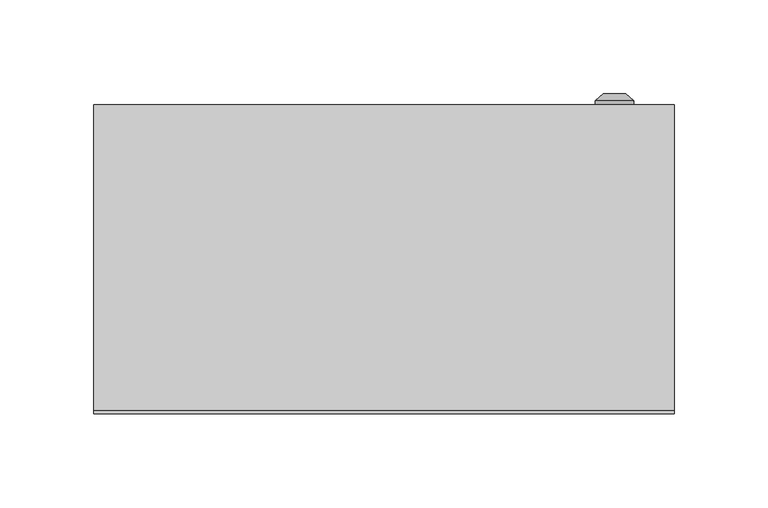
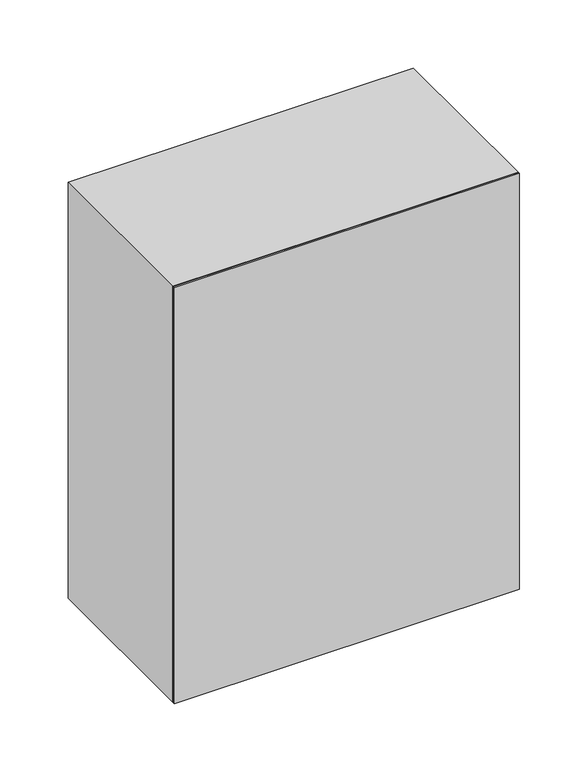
"""IFC4 building model written with IfcOpenShell, lengths in millimetres: proxy geometry, ЩУРН-1_12 : ЩУРН-1/12."""

from ifc_helpers import new_model, si_unit, point, frame, frame_2d, origin, origin_with_axes, place, context, project, spatial, polyline, circle_curve, trimmed, segment, composite_curve, outline, extrude, source, transform, mapped, element, save
from ifc_brep_helpers import plane_surface, cylinder_surface, revolved_surface, advanced_brep


def electrical_equipment_d42505dd(model_context):
    return source(origin(), model_context, "Body", "SolidModel", [
        advanced_brep(
        [(112.669873, 165.0, 197.5), (133.330127, 165.0, 197.5), (123.0, 165.0, 197.5), (121.1080471, 171.0, 197.5), (124.8919529, 171.0, 197.5), (129.0, 171.0, 197.5), (117.0, 171.0, 197.5), (121.1080471, 169.9822294, 197.5), (124.8919529, 169.9822294, 197.5), (123.0, 169.9822294, 197.5), (112.669873, 167.366592, 197.5), (133.330127, 167.366592, 197.5)],
        [
            (0, 1, circle_curve(frame((123.0, 165.0, 197.5), z_axis=(0.0, -1.0, 0.0), x_axis=(1.0, 0.0, 0.0)), 10.330127)),
            (1, 2),
            (2, 0),
            (1, 0, circle_curve(frame((123.0, 165.0, 197.5), z_axis=(0.0, -1.0, 0.0), x_axis=(1.0, 0.0, 0.0)), 10.330127)),
            (3, 4, circle_curve(frame((123.0, 171.0, 197.5), z_axis=(0.0, -1.0, 0.0), x_axis=(1.0, 0.0, 0.0)), 1.8919529)),
            (4, 5),
            (5, 6, circle_curve(frame((123.0, 171.0, 197.5), z_axis=(0.0, 1.0, 0.0), x_axis=(1.0, 0.0, 0.0)), 6.0)),
            (6, 3),
            (4, 3, circle_curve(frame((123.0, 171.0, 197.5), z_axis=(0.0, -1.0, 0.0), x_axis=(1.0, 0.0, 0.0)), 1.8919529)),
            (6, 5, circle_curve(frame((123.0, 171.0, 197.5), z_axis=(0.0, 1.0, 0.0), x_axis=(1.0, 0.0, 0.0)), 6.0)),
            (7, 8, circle_curve(frame((123.0, 169.9822294, 197.5), z_axis=(0.0, -1.0, 0.0), x_axis=(1.0, 0.0, 0.0)), 1.8919529)),
            (8, 4),
            (3, 7),
            (8, 7, circle_curve(frame((123.0, 169.9822294, 197.5), z_axis=(0.0, -1.0, 0.0), x_axis=(1.0, 0.0, 0.0)), 1.8919529)),
            (9, 8),
            (7, 9),
            (10, 11, circle_curve(frame((123.0, 167.366592, 197.5), z_axis=(0.0, -1.0, 0.0), x_axis=(1.0, 0.0, 0.0)), 10.330127)),
            (11, 1),
            (0, 10),
            (11, 10, circle_curve(frame((123.0, 167.366592, 197.5), z_axis=(0.0, -1.0, 0.0), x_axis=(1.0, 0.0, 0.0)), 10.330127)),
            (5, 11),
            (10, 6),
        ],
        [
            plane_surface(frame((123.0, 165.0, 197.5), z_axis=(0.0, -1.0, 0.0), x_axis=(1.0, 0.0, 0.0))),
            plane_surface(frame((123.0, 171.0, 197.5), z_axis=(0.0, 1.0, 0.0), x_axis=(1.0, 0.0, 0.0))),
            revolved_surface(polyline([(124.8919529, 171.0, 197.5), (124.8919529, 169.9822294, 197.5)]), (123.0, 178.1348851, 197.5), (0.0, 1.0, 0.0)),
            plane_surface(frame((123.0, 169.9822294, 197.5), z_axis=(0.0, 1.0, 0.0), x_axis=(1.0, 0.0, 0.0))),
            cylinder_surface(frame((123.0, 178.1348851, 197.5), z_axis=(0.0, 1.0, 0.0), x_axis=(1.0, 0.0, 0.0)), 10.330127),
            revolved_surface(polyline([(133.330127, 167.366592, 197.5), (129.0, 171.0, 197.5)]), (123.0, 178.1348851, 197.5), (0.0, 1.0, 0.0)),
        ],
        [
            (0, [[1, 2, 3]]),
            (0, [[4, -3, -2]]),
            (1, [[5, 6, 7, 8]]),
            (1, [[9, -8, 10, -6]]),
            (2, [[11, 12, -5, 13]]),
            (2, [[14, -13, -9, -12]]),
            (3, [[15, -11, 16]]),
            (3, [[-16, -14, -15]]),
            (4, [[17, 18, -1, 19]]),
            (4, [[20, -19, -4, -18]]),
            (5, [[-7, 21, -17, 22]]),
            (5, [[-10, -22, -20, -21]]),
        ],
    ),
        extrude(outline(polyline([(379.0, -139.0), (16.0, -139.0), (16.0, 139.0), (379.0, 139.0), (379.0, -139.0)]), holes=[composite_curve([segment(polyline([(315.0, -40.0), (315.0, -10.0), (315.0, 20.0)]), True, "CONTINUOUS"), segment(trimmed(circle_curve(frame_2d((305.0, 20.0)), 10.0), [point((315.0, 20.0))], [point((305.0, 30.0))], True, "CARTESIAN"), True, "CONTINUOUS"), segment(polyline([(305.0, 30.0), (275.0, 30.0)]), True, "CONTINUOUS"), segment(trimmed(circle_curve(frame_2d((275.0, 20.0)), 10.0), [point((275.0, 30.0))], [point((265.0, 20.0))], True, "CARTESIAN"), True, "CONTINUOUS"), segment(polyline([(265.0, 20.0), (265.0, -40.0)]), True, "CONTINUOUS"), segment(trimmed(circle_curve(frame_2d((275.0, -40.0)), 10.0), [point((265.0, -40.0))], [point((275.0, -50.0))], True, "CARTESIAN"), True, "CONTINUOUS"), segment(polyline([(275.0, -50.0), (305.0, -50.0)]), True, "CONTINUOUS"), segment(trimmed(circle_curve(frame_2d((305.0, -40.0)), 10.0), [point((305.0, -50.0))], [point((315.0, -40.0))], True, "CARTESIAN"), True, "CONTINUOUS")], self_intersect=False)]), frame((0.0, 163.0, 0.0), z_axis=(0.0, 1.0, 0.0), x_axis=(0.0, 0.0, 1.0)), (0.0, 0.0, 1.0), 2.0),
        extrude(outline(polyline([(395.0, -155.0033905), (0.0, -155.0033905), (0.0, 154.9966095), (395.0, 154.9966095), (395.0, -155.0033905)]), holes=[polyline([(380.0, -140.0), (380.0, 140.0), (15.0, 140.0), (15.0, -140.0), (380.0, -140.0)])]), frame((0.0, 2.0, 0.0), z_axis=(0.0, 1.0, 0.0), x_axis=(0.0, 0.0, 1.0)), (0.0, 0.0, 1.0), 163.0),
        extrude(outline(polyline([(155.0, 0.0), (-155.0, 0.0), (-155.0, 2.0), (155.0, 2.0), (155.0, 0.0)])), origin_with_axes(), (0.0, 0.0, 1.0), 395.0),
    ])


if __name__ == "__main__":
    model = new_model("IFC4")
    model_context = context("Model", 3, world=origin())
    ifc_project = project(units=[si_unit("LENGTHUNIT", "METRE", prefix="MILLI")], contexts=[model_context])
    site = spatial("IfcSite", under=ifc_project)
    building = spatial("IfcBuilding", under=site)
    placement = place(None, origin())
    electrical_equipment_shape = electrical_equipment_d42505dd(model_context)
    element("IfcBuildingElementProxy", 1, Name="ЩУРН-1_12 : ЩУРН-1/12", ObjectType="ЩУРН-1_12 : ЩУРН-1/12", at=placement, inside=building, context=model_context, shape_type="MappedRepresentation", body=[
        mapped(electrical_equipment_shape, transform((0.0, 0.0, 0.0), x_axis=(1.0, 0.0, 0.0), y_axis=(0.0, 1.0, 0.0), z_axis=(0.0, 0.0, 1.0))),
    ])
    save(model, "model.ifc")
